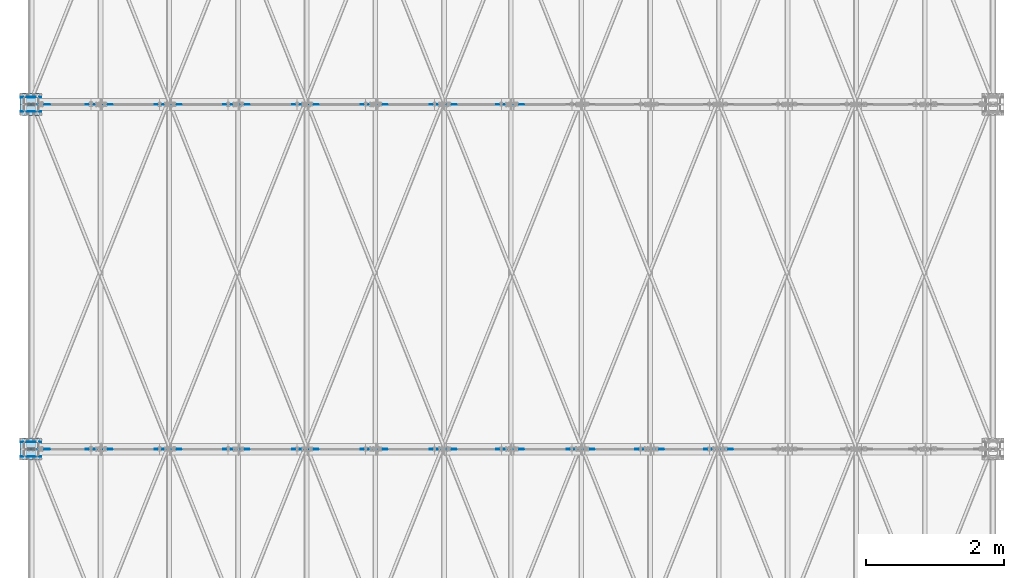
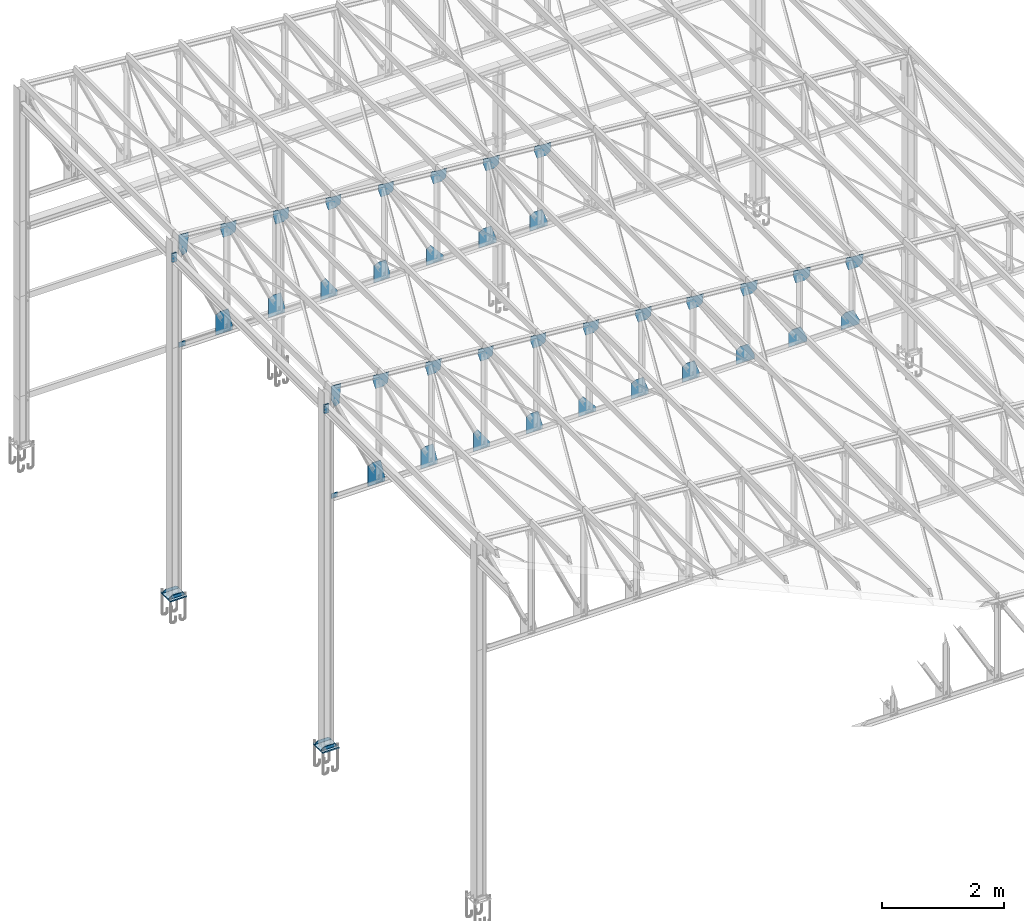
# One storey, part 7 of 251: 48 plates.
"""IFC4 building model written with IfcOpenShell, lengths in metres."""

from ifc_helpers import new_model, si_unit, frame, origin_with_axes, place, context, project, spatial, polyline, outline, extrude, type_object, element, save


model = new_model("IFC4")

# Units and contexts
model_context = context("Model", 3, precision=1e-05, world=origin_with_axes())
ifc_project = project(units=[si_unit("LENGTHUNIT", "METRE"), si_unit("AREAUNIT", "SQUARE_METRE"), si_unit("VOLUMEUNIT", "CUBIC_METRE"), si_unit("MASSUNIT", "GRAM", prefix="KILO"), si_unit("TIMEUNIT", "SECOND"), si_unit("PLANEANGLEUNIT", "RADIAN"), si_unit("SOLIDANGLEUNIT", "STERADIAN"), si_unit("THERMODYNAMICTEMPERATUREUNIT", "DEGREE_CELSIUS")], contexts=[model_context])

# Site, building, storey
placement_1 = place(None, origin_with_axes())
site = spatial("IfcSite", under=ifc_project, at=placement_1, Name="Italia", CompositionType="ELEMENT")
building = spatial("IfcBuilding", under=site, at=placement_1, Name="Deposito", CompositionType="ELEMENT")
storey = spatial("IfcBuildingStorey", under=building, at=placement_1, Name="Storey 0", CompositionType="ELEMENT", Elevation=0.0)

# Plates
plate_type_1 = type_object("IfcPlateType", Name="Collegamento -071_-070", PredefinedType="SHEET")
placement_2 = place(placement_1, origin_with_axes())
plate_1_placement = place(placement_2, origin_with_axes())
element("IfcPlate", 1, at=plate_1_placement, inside=storey, type_object=plate_type_1, Name="Collegamento -071_-070", context=model_context, shape_type="SweptSolid", body=[
    extrude(outline(polyline([(0.0, 0.0), (-0.0909996, 0.0), (-0.0909996, 0.18), (0.0, 0.18), (0.0, 0.0)])), frame((6.0045, 9.982, 6.73018), z_axis=(0.0, 1.0, 0.0), x_axis=(-1.0, 0.0, 0.0)), (0.0, 0.0, 1.0), 0.0150003),
])
plate_type_2 = type_object("IfcPlateType", Name="Collegamento -071_-072", PredefinedType="SHEET")
plate_2_placement = place(placement_2, origin_with_axes())
element("IfcPlate", 2, at=plate_2_placement, inside=storey, type_object=plate_type_2, Name="Collegamento -071_-072", context=model_context, shape_type="SweptSolid", body=[
    extrude(outline(polyline([(0.0, 0.0), (-0.0909996, 0.0), (-0.0909996, 0.18), (0.0, 0.18), (0.0, 0.0)])), frame((6.0955, 10.018, 6.73018), z_axis=(0.0, -1.0, 0.0), x_axis=(1.0, 0.0, 0.0)), (0.0, 0.0, 1.0), 0.0150003),
])
plate_type_3 = type_object("IfcPlateType", Name="Collegamento -072_-071", PredefinedType="SHEET")
plate_3_placement = place(placement_2, origin_with_axes())
element("IfcPlate", 3, at=plate_3_placement, inside=storey, type_object=plate_type_3, Name="Collegamento -072_-071", context=model_context, shape_type="SweptSolid", body=[
    extrude(outline(polyline([(0.0, 0.0), (-0.0909996, 0.0), (-0.0909996, 0.18), (0.0, 0.18), (0.0, 0.0)])), frame((6.0045, 14.982, 6.73018), z_axis=(0.0, 1.0, 0.0), x_axis=(-1.0, 0.0, 0.0)), (0.0, 0.0, 1.0), 0.0150003),
])
plate_type_4 = type_object("IfcPlateType", Name="Collegamento -072_-073", PredefinedType="SHEET")
plate_4_placement = place(placement_2, origin_with_axes())
element("IfcPlate", 4, at=plate_4_placement, inside=storey, type_object=plate_type_4, Name="Collegamento -072_-073", context=model_context, shape_type="SweptSolid", body=[
    extrude(outline(polyline([(0.0, 0.0), (-0.0909996, 0.0), (-0.0909996, 0.18), (0.0, 0.18), (0.0, 0.0)])), frame((6.0955, 15.018, 6.73018), z_axis=(0.0, -1.0, 0.0), x_axis=(1.0, 0.0, 0.0)), (0.0, 0.0, 1.0), 0.0150003),
])
plate_type_5 = type_object("IfcPlateType", Name="Collegamenti 0014_-001 0016_-054 0018_-056 0032_-002 0033_-058 0047_-003 0048_-060 0062_-004 0063_-005 0079_-008", PredefinedType="SHEET")
plate_5_placement = place(placement_2, origin_with_axes())
element("IfcPlate", 5, at=plate_5_placement, inside=storey, type_object=plate_type_5, Name="Collegamenti 0014_-001 0016_-054 0018_-056 0032_-002 0033_-058 0047_-003 0048_-060 0062_-004 0063_-005 0079_-008", context=model_context, shape_type="SweptSolid", body=[
    extrude(outline(polyline([(0.0, 0.0), (0.32, 0.0), (0.32, -0.32), (0.0, -0.32), (0.0, 0.0)])), frame((6.21, 9.84, 0.075), z_axis=(0.0, 0.0, -1.0), x_axis=(0.0, 1.0, 0.0)), (0.0, 0.0, 1.0), 0.025),
])
plate_type_6 = type_object("IfcPlateType", Name="Collegamenti 0014_-001 0016_-054 0018_-056 0032_-002 0033_-058 0047_-003 0048_-060 0062_-004 0063_-005 0079_-008", PredefinedType="SHEET")
plate_6_placement = place(placement_2, origin_with_axes())
element("IfcPlate", 6, at=plate_6_placement, inside=storey, type_object=plate_type_6, Name="Collegamenti 0014_-001 0016_-054 0018_-056 0032_-002 0033_-058 0047_-003 0048_-060 0062_-004 0063_-005 0079_-008", context=model_context, shape_type="SweptSolid", body=[
    extrude(outline(polyline([(0.0, 0.0), (0.0550003, 0.04), (0.244999, 0.04), (0.299999, 0.0), (0.299999, -0.02), (0.0, -0.02), (0.0, 0.0)])), frame((6.2, 10.1, 0.095), z_axis=(0.0, 1.0, 0.0), x_axis=(-1.0, 0.0, 0.0)), (0.0, 0.0, 1.0), 0.00999928),
])
plate_type_7 = type_object("IfcPlateType", Name="Collegamenti 0014_-001 0016_-054 0018_-056 0032_-002 0033_-058 0047_-003 0048_-060 0062_-004 0063_-005 0079_-008", PredefinedType="SHEET")
plate_7_placement = place(placement_2, origin_with_axes())
element("IfcPlate", 7, at=plate_7_placement, inside=storey, type_object=plate_type_7, Name="Collegamenti 0014_-001 0016_-054 0018_-056 0032_-002 0033_-058 0047_-003 0048_-060 0062_-004 0063_-005 0079_-008", context=model_context, shape_type="SweptSolid", body=[
    extrude(outline(polyline([(0.0, 0.0), (0.0550003, 0.04), (0.244999, 0.04), (0.299999, 0.0), (0.299999, -0.02), (0.0, -0.02), (0.0, 0.0)])), frame((6.2, 9.89, 0.095), z_axis=(0.0, 1.0, 0.0), x_axis=(-1.0, 0.0, 0.0)), (0.0, 0.0, 1.0), 0.00999928),
])
plate_type_8 = type_object("IfcPlateType", Name="Collegamenti 0014_-001 0016_-054 0018_-056 0032_-002 0033_-058 0047_-003 0048_-060 0062_-004 0063_-005 0079_-008", PredefinedType="SHEET")
plate_8_placement = place(placement_2, origin_with_axes())
element("IfcPlate", 8, at=plate_8_placement, inside=storey, type_object=plate_type_8, Name="Collegamenti 0014_-001 0016_-054 0018_-056 0032_-002 0033_-058 0047_-003 0048_-060 0062_-004 0063_-005 0079_-008", context=model_context, shape_type="SweptSolid", body=[
    extrude(outline(polyline([(0.0, 0.0), (0.32, 0.0), (0.32, -0.32), (0.0, -0.32), (0.0, 0.0)])), frame((6.21, 14.84, 0.075), z_axis=(0.0, 0.0, -1.0), x_axis=(0.0, 1.0, 0.0)), (0.0, 0.0, 1.0), 0.025),
])
plate_type_9 = type_object("IfcPlateType", Name="Collegamenti 0014_-001 0016_-054 0018_-056 0032_-002 0033_-058 0047_-003 0048_-060 0062_-004 0063_-005 0079_-008", PredefinedType="SHEET")
plate_9_placement = place(placement_2, origin_with_axes())
element("IfcPlate", 9, at=plate_9_placement, inside=storey, type_object=plate_type_9, Name="Collegamenti 0014_-001 0016_-054 0018_-056 0032_-002 0033_-058 0047_-003 0048_-060 0062_-004 0063_-005 0079_-008", context=model_context, shape_type="SweptSolid", body=[
    extrude(outline(polyline([(0.0, 0.0), (0.0550003, 0.04), (0.244999, 0.04), (0.299999, 0.0), (0.299999, -0.02), (0.0, -0.02), (0.0, 0.0)])), frame((6.2, 15.1, 0.095), z_axis=(0.0, 1.0, 0.0), x_axis=(-1.0, 0.0, 0.0)), (0.0, 0.0, 1.0), 0.00999928),
])
plate_type_10 = type_object("IfcPlateType", Name="Collegamenti 0014_-001 0016_-054 0018_-056 0032_-002 0033_-058 0047_-003 0048_-060 0062_-004 0063_-005 0079_-008", PredefinedType="SHEET")
plate_10_placement = place(placement_2, origin_with_axes())
element("IfcPlate", 10, at=plate_10_placement, inside=storey, type_object=plate_type_10, Name="Collegamenti 0014_-001 0016_-054 0018_-056 0032_-002 0033_-058 0047_-003 0048_-060 0062_-004 0063_-005 0079_-008", context=model_context, shape_type="SweptSolid", body=[
    extrude(outline(polyline([(0.0, 0.0), (0.0550003, 0.04), (0.244999, 0.04), (0.299999, 0.0), (0.299999, -0.02), (0.0, -0.02), (0.0, 0.0)])), frame((6.2, 14.89, 0.095), z_axis=(0.0, 1.0, 0.0), x_axis=(-1.0, 0.0, 0.0)), (0.0, 0.0, 1.0), 0.00999928),
])
plate_type_11 = type_object("IfcPlateType", Name="Reticolare 4", PredefinedType="SHEET")
plate_11_placement = place(placement_2, origin_with_axes())
element("IfcPlate", 11, at=plate_11_placement, inside=storey, type_object=plate_type_11, Name="Reticolare 4", context=model_context, shape_type="SweptSolid", body=[
    extrude(outline(polyline([(0.0, 0.0), (-0.12105, 0.0), (-0.12105, 0.100517), (0.0, 0.100517), (0.0, 0.0)])), frame((6.26605, 10.005, 4.97748), z_axis=(0.0, -1.0, 0.0), x_axis=(1.0, 0.0, 0.0)), (0.0, 0.0, 1.0), 0.0100002),
])
plate_type_12 = type_object("IfcPlateType", Name="Reticolare 4", PredefinedType="SHEET")
plate_12_placement = place(placement_2, origin_with_axes())
element("IfcPlate", 12, at=plate_12_placement, inside=storey, type_object=plate_type_12, Name="Reticolare 4", context=model_context, shape_type="SweptSolid", body=[
    extrude(outline(polyline([(0.0, 0.0), (0.091186, 0.0410495), (0.241229, 0.0410495), (0.319712, -0.316928), (0.319712, -0.406928), (0.0, -0.406928), (0.0, 0.0)])), frame((6.84076, 10.005, 5.38441), z_axis=(0.0, -1.0, 0.0), x_axis=(1.0, 0.0, 0.0)), (0.0, 0.0, 1.0), 0.0100002),
])
plate_type_13 = type_object("IfcPlateType", Name="Reticolare 4", PredefinedType="SHEET")
plate_13_placement = place(placement_2, origin_with_axes())
element("IfcPlate", 13, at=plate_13_placement, inside=storey, type_object=plate_type_13, Name="Reticolare 4", context=model_context, shape_type="SweptSolid", body=[
    extrude(outline(polyline([(0.0, 0.0), (-0.314665, 0.0), (-0.314665, 0.381756), (-0.22406, 0.424072), (-0.0784826, 0.424072), (0.0, 0.0899997), (0.0, 0.0)])), frame((8.15666, 10.005, 4.97748), z_axis=(0.0, -1.0, 0.0), x_axis=(1.0, 0.0, 0.0)), (0.0, 0.0, 1.0), 0.0100002),
])
plate_type_14 = type_object("IfcPlateType", Name="Reticolare 4", PredefinedType="SHEET")
plate_14_placement = place(placement_2, origin_with_axes())
element("IfcPlate", 14, at=plate_14_placement, inside=storey, type_object=plate_type_14, Name="Reticolare 4", context=model_context, shape_type="SweptSolid", body=[
    extrude(outline(polyline([(0.0, 0.0), (-0.315924, 0.0), (-0.315924, 0.36909), (-0.226016, 0.412868), (0.0, 0.0899997), (0.0, 0.0)])), frame((9.15286, 10.005, 4.97748), z_axis=(0.0, -1.0, 0.0), x_axis=(1.0, 0.0, 0.0)), (0.0, 0.0, 1.0), 0.0100002),
])
plate_type_15 = type_object("IfcPlateType", Name="Reticolare 4", PredefinedType="SHEET")
plate_15_placement = place(placement_2, origin_with_axes())
element("IfcPlate", 15, at=plate_15_placement, inside=storey, type_object=plate_type_15, Name="Reticolare 4", context=model_context, shape_type="SweptSolid", body=[
    extrude(outline(polyline([(0.0, 0.0), (-0.309073, 0.0), (-0.309073, 0.34024), (-0.219939, 0.385573), (-0.0784826, 0.385573), (0.0, 0.0899997), (0.0, 0.0)])), frame((10.1491, 10.005, 4.97748), z_axis=(0.0, -1.0, 0.0), x_axis=(1.0, 0.0, 0.0)), (0.0, 0.0, 1.0), 0.0100002),
])
plate_type_16 = type_object("IfcPlateType", Name="Reticolare 4", PredefinedType="SHEET")
plate_16_placement = place(placement_2, origin_with_axes())
element("IfcPlate", 16, at=plate_16_placement, inside=storey, type_object=plate_type_16, Name="Reticolare 4", context=model_context, shape_type="SweptSolid", body=[
    extrude(outline(polyline([(0.0, 0.0), (-0.328134, 0.0), (-0.328134, 0.327425), (-0.23986, 0.374413), (0.0, 0.0899997), (0.0, 0.0)])), frame((11.1632, 10.005, 4.97748), z_axis=(0.0, -1.0, 0.0), x_axis=(1.0, 0.0, 0.0)), (0.0, 0.0, 1.0), 0.0100002),
])
plate_type_17 = type_object("IfcPlateType", Name="Reticolare 4", PredefinedType="SHEET")
plate_17_placement = place(placement_2, origin_with_axes())
element("IfcPlate", 17, at=plate_17_placement, inside=storey, type_object=plate_type_17, Name="Reticolare 4", context=model_context, shape_type="SweptSolid", body=[
    extrude(outline(polyline([(0.0, 0.0), (-0.329223, 0.0), (-0.329223, 0.314454), (-0.241909, 0.3632), (-0.0964823, 0.3632), (0.0, 0.0899997), (0.0, 0.0)])), frame((12.1594, 10.005, 4.97748), z_axis=(0.0, -1.0, 0.0), x_axis=(1.0, 0.0, 0.0)), (0.0, 0.0, 1.0), 0.0100002),
])
plate_type_18 = type_object("IfcPlateType", Name="Reticolare 4", PredefinedType="SHEET")
plate_18_placement = place(placement_2, origin_with_axes())
element("IfcPlate", 18, at=plate_18_placement, inside=storey, type_object=plate_type_18, Name="Reticolare 4", context=model_context, shape_type="SweptSolid", body=[
    extrude(outline(polyline([(0.0, 0.0), (-0.329739, 0.0), (-0.329739, 0.308363), (-0.242908, 0.357966), (-0.0964823, 0.357966), (0.0, 0.0899997), (0.0, 0.0)])), frame((13.129, 10.005, 4.97748), z_axis=(0.0, -1.0, 0.0), x_axis=(1.0, 0.0, 0.0)), (0.0, 0.0, 1.0), 0.0100002),
])
plate_type_19 = type_object("IfcPlateType", Name="Reticolare 4", PredefinedType="SHEET")
plate_19_placement = place(placement_2, origin_with_axes())
element("IfcPlate", 19, at=plate_19_placement, inside=storey, type_object=plate_type_19, Name="Reticolare 4", context=model_context, shape_type="SweptSolid", body=[
    extrude(outline(polyline([(0.0, 0.0), (-0.347019, 0.0), (-0.347019, 0.281458), (-0.262612, 0.33508), (-0.111483, 0.33508), (0.0, 0.0899997), (0.0, 0.0)])), frame((14.1668, 10.005, 4.97748), z_axis=(0.0, -1.0, 0.0), x_axis=(1.0, 0.0, 0.0)), (0.0, 0.0, 1.0), 0.0100002),
])
plate_type_20 = type_object("IfcPlateType", Name="Reticolare 4", PredefinedType="SHEET")
plate_20_placement = place(placement_2, origin_with_axes())
element("IfcPlate", 20, at=plate_20_placement, inside=storey, type_object=plate_type_20, Name="Reticolare 4", context=model_context, shape_type="SweptSolid", body=[
    extrude(outline(polyline([(0.0, 0.0), (-0.347613, 0.0), (-0.347613, 0.27439), (-0.263927, 0.329132), (-0.111483, 0.329132), (0.0, 0.0899997), (0.0, 0.0)])), frame((15.163, 10.005, 4.97748), z_axis=(0.0, -1.0, 0.0), x_axis=(1.0, 0.0, 0.0)), (0.0, 0.0, 1.0), 0.0100002),
])
plate_type_21 = type_object("IfcPlateType", Name="Reticolare 4", PredefinedType="SHEET")
plate_21_placement = place(placement_2, origin_with_axes())
element("IfcPlate", 21, at=plate_21_placement, inside=storey, type_object=plate_type_21, Name="Reticolare 4", context=model_context, shape_type="SweptSolid", body=[
    extrude(outline(polyline([(0.0, 0.0), (-0.348755, 0.0), (-0.348755, 0.260579), (-0.266594, 0.317585), (-0.111485, 0.317585), (0.0, 0.0899997), (0.0, 0.0)])), frame((16.1592, 10.005, 4.97748), z_axis=(0.0, -1.0, 0.0), x_axis=(1.0, 0.0, 0.0)), (0.0, 0.0, 1.0), 0.0100002),
])
plate_type_22 = type_object("IfcPlateType", Name="Reticolare 4", PredefinedType="SHEET")
plate_22_placement = place(placement_2, origin_with_axes())
element("IfcPlate", 22, at=plate_22_placement, inside=storey, type_object=plate_type_22, Name="Reticolare 4", context=model_context, shape_type="SweptSolid", body=[
    extrude(outline(polyline([(0.0, 0.0), (0.327069, -0.0286155), (0.312547, -0.194606), (0.232112, -0.254023), (0.041132, -0.254023), (-0.00784492, -0.0896578), (0.0, 0.0)])), frame((15.9066, 10.005, 6.38073), z_axis=(0.0, -1.0, 0.0), x_axis=(1.0, 0.0, 0.0)), (0.0, 0.0, 1.0), 0.0100002),
])
plate_type_23 = type_object("IfcPlateType", Name="Reticolare 4", PredefinedType="SHEET")
plate_23_placement = place(placement_2, origin_with_axes())
element("IfcPlate", 23, at=plate_23_placement, inside=storey, type_object=plate_type_23, Name="Reticolare 4", context=model_context, shape_type="SweptSolid", body=[
    extrude(outline(polyline([(0.0, 0.0), (0.319398, -0.0279436), (0.304669, -0.196292), (0.222508, -0.253298), (0.041132, -0.253298), (-0.00784397, -0.0896573), (0.0, 0.0)])), frame((14.9104, 10.005, 6.46788), z_axis=(0.0, -1.0, 0.0), x_axis=(1.0, 0.0, 0.0)), (0.0, 0.0, 1.0), 0.0100002),
])
plate_type_24 = type_object("IfcPlateType", Name="Reticolare 4", PredefinedType="SHEET")
plate_24_placement = place(placement_2, origin_with_axes())
element("IfcPlate", 24, at=plate_24_placement, inside=storey, type_object=plate_type_24, Name="Reticolare 4", context=model_context, shape_type="SweptSolid", body=[
    extrude(outline(polyline([(0.0, 0.0), (-0.0149136, -0.170458), (-0.0985994, -0.2252), (-0.271422, -0.2252), (-0.325274, -0.0621495), (-0.317634, 0.0275254), (-0.196971, 0.0172324), (0.0, 0.0)])), frame((14.2268, 10.005, 6.5277), z_axis=(0.0, -1.0, 0.0), x_axis=(1.0, 0.0, 0.0)), (0.0, 0.0, 1.0), 0.0100002),
])
plate_type_25 = type_object("IfcPlateType", Name="Reticolare 4", PredefinedType="SHEET")
plate_25_placement = place(placement_2, origin_with_axes())
element("IfcPlate", 25, at=plate_25_placement, inside=storey, type_object=plate_type_25, Name="Reticolare 4", context=model_context, shape_type="SweptSolid", body=[
    extrude(outline(polyline([(0.0, 0.0), (0.313652, -0.0272665), (0.299024, -0.198937), (0.214616, -0.252559), (0.0460606, -0.252559), (-0.00805664, -0.0896382), (0.0, 0.0)])), frame((12.8865, 10.005, 6.6429), z_axis=(0.0, -1.0, 0.0), x_axis=(1.0, 0.0, 0.0)), (0.0, 0.0, 1.0), 0.0100002),
])
plate_type_26 = type_object("IfcPlateType", Name="Reticolare 4", PredefinedType="SHEET")
plate_26_placement = place(placement_2, origin_with_axes())
element("IfcPlate", 26, at=plate_26_placement, inside=storey, type_object=plate_type_26, Name="Reticolare 4", context=model_context, shape_type="SweptSolid", body=[
    extrude(outline(polyline([(0.0, 0.0), (-0.0157042, -0.174694), (-0.102534, -0.224296), (-0.257545, -0.224296), (-0.311526, -0.0626369), (-0.303682, 0.0270209), (-0.183041, 0.0164542), (0.0, 0.0)])), frame((12.2205, 10.005, 6.70277), z_axis=(0.0, -1.0, 0.0), x_axis=(1.0, 0.0, 0.0)), (0.0, 0.0, 1.0), 0.0100002),
])
plate_type_27 = type_object("IfcPlateType", Name="Reticolare 4", PredefinedType="SHEET")
plate_27_placement = place(placement_2, origin_with_axes())
element("IfcPlate", 27, at=plate_27_placement, inside=storey, type_object=plate_type_27, Name="Reticolare 4", context=model_context, shape_type="SweptSolid", body=[
    extrude(outline(polyline([(0.0, 0.0), (-0.0873137, -0.0487461), (-0.239327, -0.0487461), (-0.288303, 0.11182), (-0.280459, 0.201478), (0.0153627, 0.175597), (0.0, 0.0)])), frame((11.2061, 10.005, 6.61503), z_axis=(0.0, -1.0, 0.0), x_axis=(1.0, 0.0, 0.0)), (0.0, 0.0, 1.0), 0.0100002),
])
plate_type_28 = type_object("IfcPlateType", Name="Reticolare 4", PredefinedType="SHEET")
plate_28_placement = place(placement_2, origin_with_axes())
element("IfcPlate", 28, at=plate_28_placement, inside=storey, type_object=plate_type_28, Name="Reticolare 4", context=model_context, shape_type="SweptSolid", body=[
    extrude(outline(polyline([(0.0, 0.0), (-0.088274, -0.0469871), (-0.234612, -0.0469871), (-0.283587, 0.112811), (-0.275743, 0.202468), (0.0154839, 0.176989), (0.0, 0.0)])), frame((10.2052, 10.005, 6.70119), z_axis=(0.0, -1.0, 0.0), x_axis=(1.0, 0.0, 0.0)), (0.0, 0.0, 1.0), 0.0100002),
])
plate_type_29 = type_object("IfcPlateType", Name="Reticolare 4", PredefinedType="SHEET")
plate_29_placement = place(placement_2, origin_with_axes())
element("IfcPlate", 29, at=plate_29_placement, inside=storey, type_object=plate_type_29, Name="Reticolare 4", context=model_context, shape_type="SweptSolid", body=[
    extrude(outline(polyline([(0.0, 0.0), (-0.0891342, -0.0453334), (-0.230591, -0.0453334), (-0.279567, 0.11429), (-0.271723, 0.203948), (0.0156431, 0.178806), (0.0, 0.0)])), frame((9.20497, 10.005, 6.78687), z_axis=(0.0, -1.0, 0.0), x_axis=(1.0, 0.0, 0.0)), (0.0, 0.0, 1.0), 0.0100002),
])
plate_type_30 = type_object("IfcPlateType", Name="Reticolare 4", PredefinedType="SHEET")
plate_30_placement = place(placement_2, origin_with_axes())
element("IfcPlate", 30, at=plate_30_placement, inside=storey, type_object=plate_type_30, Name="Reticolare 4", context=model_context, shape_type="SweptSolid", body=[
    extrude(outline(polyline([(0.0, 0.0), (-0.0899067, -0.0437794), (-0.237442, -0.0437794), (-0.286417, 0.137344), (-0.278573, 0.227001), (0.0175934, 0.20109), (0.0, 0.0)])), frame((8.21562, 10.005, 6.85097), z_axis=(0.0, -1.0, 0.0), x_axis=(1.0, 0.0, 0.0)), (0.0, 0.0, 1.0), 0.0100002),
])
plate_type_31 = type_object("IfcPlateType", Name="Reticolare 4", PredefinedType="SHEET")
plate_31_placement = place(placement_2, origin_with_axes())
element("IfcPlate", 31, at=plate_31_placement, inside=storey, type_object=plate_type_31, Name="Reticolare 4", context=model_context, shape_type="SweptSolid", body=[
    extrude(outline(polyline([(0.0, 0.0), (0.295519, -0.0258226), (0.277323, -0.233812), (0.186718, -0.276128), (0.041141, -0.276128), (-0.0078187, -0.0896597), (0.0, 0.0)])), frame((6.94084, 10.005, 7.1651), z_axis=(0.0, -1.0, 0.0), x_axis=(1.0, 0.0, 0.0)), (0.0, 0.0, 1.0), 0.0100002),
])
plate_type_32 = type_object("IfcPlateType", Name="Reticolare 4", PredefinedType="SHEET")
plate_32_placement = place(placement_2, origin_with_axes())
element("IfcPlate", 32, at=plate_32_placement, inside=storey, type_object=plate_type_32, Name="Reticolare 4", context=model_context, shape_type="SweptSolid", body=[
    extrude(outline(polyline([(0.0, 0.0), (0.0100002, 0.0), (0.184436, -0.0160832), (0.151229, -0.396886), (0.0691614, -0.433831), (0.0, -0.2802), (0.0, 0.0)])), frame((6.145, 10.005, 7.2345), z_axis=(0.0, -1.0, 0.0), x_axis=(1.0, 0.0, 0.0)), (0.0, 0.0, 1.0), 0.0100002),
])
plate_type_33 = type_object("IfcPlateType", Name="Reticolare 5", PredefinedType="SHEET")
plate_33_placement = place(placement_2, origin_with_axes())
element("IfcPlate", 33, at=plate_33_placement, inside=storey, type_object=plate_type_33, Name="Reticolare 5", context=model_context, shape_type="SweptSolid", body=[
    extrude(outline(polyline([(0.0, 0.0), (-0.12105, 0.0), (-0.12105, 0.100517), (0.0, 0.100517), (0.0, 0.0)])), frame((6.26605, 15.005, 4.97748), z_axis=(0.0, -1.0, 0.0), x_axis=(1.0, 0.0, 0.0)), (0.0, 0.0, 1.0), 0.0100002),
])
plate_type_34 = type_object("IfcPlateType", Name="Reticolare 5", PredefinedType="SHEET")
plate_34_placement = place(placement_2, origin_with_axes())
element("IfcPlate", 34, at=plate_34_placement, inside=storey, type_object=plate_type_34, Name="Reticolare 5", context=model_context, shape_type="SweptSolid", body=[
    extrude(outline(polyline([(0.0, 0.0), (-0.319712, 0.0), (-0.319712, 0.406928), (-0.228526, 0.447978), (-0.0784831, 0.447978), (0.0, 0.0899997), (0.0, 0.0)])), frame((7.16047, 15.005, 4.97748), z_axis=(0.0, -1.0, 0.0), x_axis=(1.0, 0.0, 0.0)), (0.0, 0.0, 1.0), 0.0100002),
])
plate_type_35 = type_object("IfcPlateType", Name="Reticolare 5", PredefinedType="SHEET")
plate_35_placement = place(placement_2, origin_with_axes())
element("IfcPlate", 35, at=plate_35_placement, inside=storey, type_object=plate_type_35, Name="Reticolare 5", context=model_context, shape_type="SweptSolid", body=[
    extrude(outline(polyline([(0.0, 0.0), (0.0906053, 0.0423155), (0.236182, 0.0423155), (0.314665, -0.291757), (0.314665, -0.381756), (0.0, -0.381756), (0.0, 0.0)])), frame((7.842, 15.005, 5.35924), z_axis=(0.0, -1.0, 0.0), x_axis=(1.0, 0.0, 0.0)), (0.0, 0.0, 1.0), 0.0100002),
])
plate_type_36 = type_object("IfcPlateType", Name="Reticolare 5", PredefinedType="SHEET")
plate_36_placement = place(placement_2, origin_with_axes())
element("IfcPlate", 36, at=plate_36_placement, inside=storey, type_object=plate_type_36, Name="Reticolare 5", context=model_context, shape_type="SweptSolid", body=[
    extrude(outline(polyline([(0.0, 0.0), (-0.315924, 0.0), (-0.315924, 0.36909), (-0.226016, 0.412868), (0.0, 0.0899997), (0.0, 0.0)])), frame((9.15286, 15.005, 4.97748), z_axis=(0.0, -1.0, 0.0), x_axis=(1.0, 0.0, 0.0)), (0.0, 0.0, 1.0), 0.0100002),
])
plate_type_37 = type_object("IfcPlateType", Name="Reticolare 5", PredefinedType="SHEET")
plate_37_placement = place(placement_2, origin_with_axes())
element("IfcPlate", 37, at=plate_37_placement, inside=storey, type_object=plate_type_37, Name="Reticolare 5", context=model_context, shape_type="SweptSolid", body=[
    extrude(outline(polyline([(0.0, 0.0), (-0.309073, 0.0), (-0.309073, 0.34024), (-0.219939, 0.385573), (-0.0784826, 0.385573), (0.0, 0.0899997), (0.0, 0.0)])), frame((10.1491, 15.005, 4.97748), z_axis=(0.0, -1.0, 0.0), x_axis=(1.0, 0.0, 0.0)), (0.0, 0.0, 1.0), 0.0100002),
])
plate_type_38 = type_object("IfcPlateType", Name="Reticolare 5", PredefinedType="SHEET")
plate_38_placement = place(placement_2, origin_with_axes())
element("IfcPlate", 38, at=plate_38_placement, inside=storey, type_object=plate_type_38, Name="Reticolare 5", context=model_context, shape_type="SweptSolid", body=[
    extrude(outline(polyline([(0.0, 0.0), (-0.328134, 0.0), (-0.328134, 0.327425), (-0.23986, 0.374413), (0.0, 0.0899997), (0.0, 0.0)])), frame((11.1632, 15.005, 4.97748), z_axis=(0.0, -1.0, 0.0), x_axis=(1.0, 0.0, 0.0)), (0.0, 0.0, 1.0), 0.0100002),
])
plate_type_39 = type_object("IfcPlateType", Name="Reticolare 5", PredefinedType="SHEET")
plate_39_placement = place(placement_2, origin_with_axes())
element("IfcPlate", 39, at=plate_39_placement, inside=storey, type_object=plate_type_39, Name="Reticolare 5", context=model_context, shape_type="SweptSolid", body=[
    extrude(outline(polyline([(0.0, 0.0), (-0.329223, 0.0), (-0.329223, 0.314454), (-0.241909, 0.3632), (-0.0964823, 0.3632), (0.0, 0.0899997), (0.0, 0.0)])), frame((12.1594, 15.005, 4.97748), z_axis=(0.0, -1.0, 0.0), x_axis=(1.0, 0.0, 0.0)), (0.0, 0.0, 1.0), 0.0100002),
])
plate_type_40 = type_object("IfcPlateType", Name="Reticolare 5", PredefinedType="SHEET")
plate_40_placement = place(placement_2, origin_with_axes())
element("IfcPlate", 40, at=plate_40_placement, inside=storey, type_object=plate_type_40, Name="Reticolare 5", context=model_context, shape_type="SweptSolid", body=[
    extrude(outline(polyline([(0.0, 0.0), (-0.329739, 0.0), (-0.329739, 0.308363), (-0.242908, 0.357966), (-0.0964823, 0.357966), (0.0, 0.0899997), (0.0, 0.0)])), frame((13.129, 15.005, 4.97748), z_axis=(0.0, -1.0, 0.0), x_axis=(1.0, 0.0, 0.0)), (0.0, 0.0, 1.0), 0.0100002),
])
plate_type_41 = type_object("IfcPlateType", Name="Reticolare 5", PredefinedType="SHEET")
plate_41_placement = place(placement_2, origin_with_axes())
element("IfcPlate", 41, at=plate_41_placement, inside=storey, type_object=plate_type_41, Name="Reticolare 5", context=model_context, shape_type="SweptSolid", body=[
    extrude(outline(polyline([(0.0, 0.0), (0.313652, -0.0272665), (0.299024, -0.198937), (0.214616, -0.252559), (0.0460606, -0.252559), (-0.00805664, -0.0896382), (0.0, 0.0)])), frame((12.8865, 15.005, 6.6429), z_axis=(0.0, -1.0, 0.0), x_axis=(1.0, 0.0, 0.0)), (0.0, 0.0, 1.0), 0.0100002),
])
plate_type_42 = type_object("IfcPlateType", Name="Reticolare 5", PredefinedType="SHEET")
plate_42_placement = place(placement_2, origin_with_axes())
element("IfcPlate", 42, at=plate_42_placement, inside=storey, type_object=plate_type_42, Name="Reticolare 5", context=model_context, shape_type="SweptSolid", body=[
    extrude(outline(polyline([(0.0, 0.0), (-0.0157042, -0.174694), (-0.102534, -0.224296), (-0.257545, -0.224296), (-0.311526, -0.0626369), (-0.303682, 0.0270209), (-0.183041, 0.0164542), (0.0, 0.0)])), frame((12.2205, 15.005, 6.70277), z_axis=(0.0, -1.0, 0.0), x_axis=(1.0, 0.0, 0.0)), (0.0, 0.0, 1.0), 0.0100002),
])
plate_type_43 = type_object("IfcPlateType", Name="Reticolare 5", PredefinedType="SHEET")
plate_43_placement = place(placement_2, origin_with_axes())
element("IfcPlate", 43, at=plate_43_placement, inside=storey, type_object=plate_type_43, Name="Reticolare 5", context=model_context, shape_type="SweptSolid", body=[
    extrude(outline(polyline([(0.0, 0.0), (-0.0873137, -0.0487461), (-0.239327, -0.0487461), (-0.288303, 0.11182), (-0.280459, 0.201478), (0.0153627, 0.175597), (0.0, 0.0)])), frame((11.2061, 15.005, 6.61503), z_axis=(0.0, -1.0, 0.0), x_axis=(1.0, 0.0, 0.0)), (0.0, 0.0, 1.0), 0.0100002),
])
plate_type_44 = type_object("IfcPlateType", Name="Reticolare 5", PredefinedType="SHEET")
plate_44_placement = place(placement_2, origin_with_axes())
element("IfcPlate", 44, at=plate_44_placement, inside=storey, type_object=plate_type_44, Name="Reticolare 5", context=model_context, shape_type="SweptSolid", body=[
    extrude(outline(polyline([(0.0, 0.0), (-0.088274, -0.0469871), (-0.234612, -0.0469871), (-0.283587, 0.112811), (-0.275743, 0.202468), (0.0154839, 0.176989), (0.0, 0.0)])), frame((10.2052, 15.005, 6.70119), z_axis=(0.0, -1.0, 0.0), x_axis=(1.0, 0.0, 0.0)), (0.0, 0.0, 1.0), 0.0100002),
])
plate_type_45 = type_object("IfcPlateType", Name="Reticolare 5", PredefinedType="SHEET")
plate_45_placement = place(placement_2, origin_with_axes())
element("IfcPlate", 45, at=plate_45_placement, inside=storey, type_object=plate_type_45, Name="Reticolare 5", context=model_context, shape_type="SweptSolid", body=[
    extrude(outline(polyline([(0.0, 0.0), (-0.0891342, -0.0453334), (-0.230591, -0.0453334), (-0.279567, 0.11429), (-0.271723, 0.203948), (0.0156431, 0.178806), (0.0, 0.0)])), frame((9.20497, 15.005, 6.78687), z_axis=(0.0, -1.0, 0.0), x_axis=(1.0, 0.0, 0.0)), (0.0, 0.0, 1.0), 0.0100002),
])
plate_type_46 = type_object("IfcPlateType", Name="Reticolare 5", PredefinedType="SHEET")
plate_46_placement = place(placement_2, origin_with_axes())
element("IfcPlate", 46, at=plate_46_placement, inside=storey, type_object=plate_type_46, Name="Reticolare 5", context=model_context, shape_type="SweptSolid", body=[
    extrude(outline(polyline([(0.0, 0.0), (-0.0899067, -0.0437794), (-0.237442, -0.0437794), (-0.286417, 0.137344), (-0.278573, 0.227001), (0.0175934, 0.20109), (0.0, 0.0)])), frame((8.21562, 15.005, 6.85097), z_axis=(0.0, -1.0, 0.0), x_axis=(1.0, 0.0, 0.0)), (0.0, 0.0, 1.0), 0.0100002),
])
plate_type_47 = type_object("IfcPlateType", Name="Reticolare 5", PredefinedType="SHEET")
plate_47_placement = place(placement_2, origin_with_axes())
element("IfcPlate", 47, at=plate_47_placement, inside=storey, type_object=plate_type_47, Name="Reticolare 5", context=model_context, shape_type="SweptSolid", body=[
    extrude(outline(polyline([(0.0, 0.0), (0.295519, -0.0258226), (0.277323, -0.233812), (0.186718, -0.276128), (0.041141, -0.276128), (-0.0078187, -0.0896597), (0.0, 0.0)])), frame((6.94084, 15.005, 7.1651), z_axis=(0.0, -1.0, 0.0), x_axis=(1.0, 0.0, 0.0)), (0.0, 0.0, 1.0), 0.0100002),
])
plate_type_48 = type_object("IfcPlateType", Name="Reticolare 5", PredefinedType="SHEET")
plate_48_placement = place(placement_2, origin_with_axes())
element("IfcPlate", 48, at=plate_48_placement, inside=storey, type_object=plate_type_48, Name="Reticolare 5", context=model_context, shape_type="SweptSolid", body=[
    extrude(outline(polyline([(0.0, 0.0), (0.0100002, 0.0), (0.184436, -0.0160832), (0.151229, -0.396886), (0.0691614, -0.433831), (0.0, -0.2802), (0.0, 0.0)])), frame((6.145, 15.005, 7.2345), z_axis=(0.0, -1.0, 0.0), x_axis=(1.0, 0.0, 0.0)), (0.0, 0.0, 1.0), 0.0100002),
])

save(model, "model.ifc")
